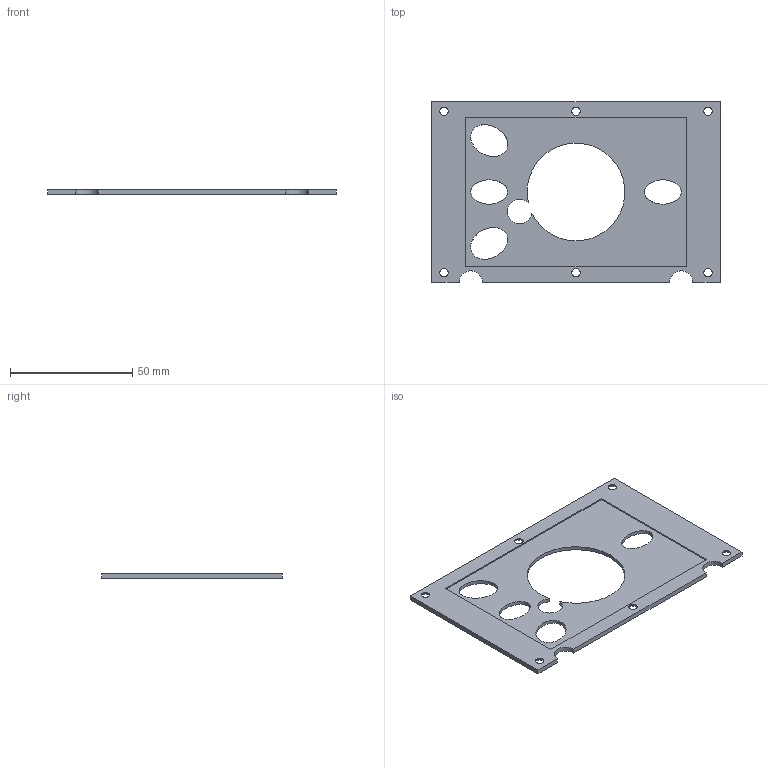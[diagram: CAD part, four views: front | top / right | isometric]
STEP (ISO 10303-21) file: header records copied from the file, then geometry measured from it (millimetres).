
FILE_DESCRIPTION(/* description */ (''),/* implementation_level */ '2;1');
FILE_NAME(/* name */ 'E:\我的坚果云\Work\系统方案\金属加工订单\40K窗口掩膜板20220929\40Kmask_3.stp',/* time_stamp */ '2022-09-29T10:14:09+08:00',/* author */ ('huayi'),/* organization */ (''),/* preprocessor_version */ 'ST-DEVELOPER v19',/* originating_system */ 'Autodesk Inventor 2023',/* authorisation */ '');
FILE_SCHEMA (('AUTOMOTIVE_DESIGN { 1 0 10303 214 3 1 1 }'));
Length unit declared in the file: millimetre
Products named in the file (1): 40Kmask_3
Bounding box: 118 x 74 x 2 mm (x, y, z)
Volume: 11555.8 mm3; surface area: 14974.7 mm2
Topology: 1 solids, 1 shells, 33 faces, 90 edges, 64 vertices
Faces by surface type: plane 13, cylinder 10, cone 6, bspline 4
Full cylindrical faces by diameter (mm): 3.4 x6
Entity records: 1188 total; most frequent: CARTESIAN_POINT 250, DIRECTION 182, ORIENTED_EDGE 168, EDGE_CURVE 84, AXIS2_PLACEMENT_3D 66, EDGE_LOOP 56, VERTEX_POINT 54, LINE 50
